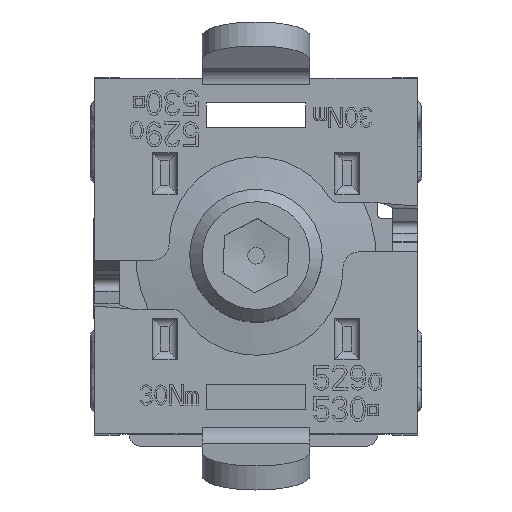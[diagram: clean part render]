
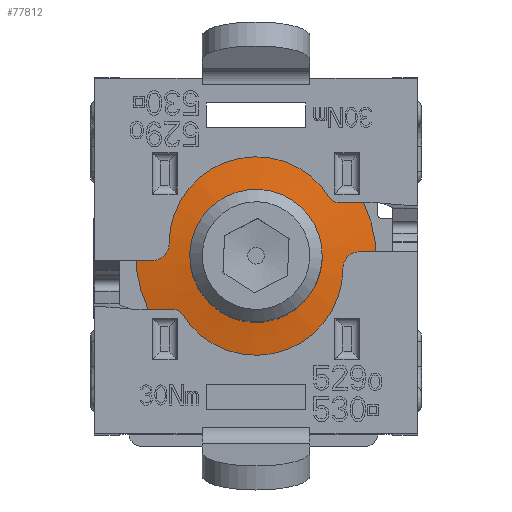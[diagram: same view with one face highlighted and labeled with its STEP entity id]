
A CAD part, top view. The second image highlights one B-rep face of the part: STEP entity #77812.
In plain terms, the highlighted conical face has half-angle 81.027 degrees and reference radius 14.5 mm.
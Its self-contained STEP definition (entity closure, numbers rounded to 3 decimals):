
#4224 = AXIS2_PLACEMENT_3D ( 'NONE', #26512, #65014, #64211 ) ;
#7205 = FACE_OUTER_BOUND ( 'NONE', #50104, .T. ) ;
#11883 = DIRECTION ( 'NONE',  ( -0.993, -0.115, 0. ) ) ;
#13421 = EDGE_CURVE ( 'NONE', #80556, #80556, #21900, .T. ) ;
#13458 = EDGE_LOOP ( 'NONE', ( #54775 ) ) ;
#15121 = VERTEX_POINT ( 'NONE', #17976 ) ;
#17976 = CARTESIAN_POINT ( 'NONE',  ( -14.404, 19.834, -25.99 ) ) ;
#18363 = EDGE_CURVE ( 'NONE', #15121, #15121, #28356, .T. ) ;
#19162 = CONICAL_SURFACE ( 'NONE', #57681, 14.5, 1.414 ) ;
#21047 = DIRECTION ( 'NONE',  ( 0., 0., -1. ) ) ;
#21900 = CIRCLE ( 'NONE', #73510, 5. ) ;
#26512 = CARTESIAN_POINT ( 'NONE',  ( 0., 21.5, -25.99 ) ) ;
#28356 = CIRCLE ( 'NONE', #4224, 14.5 ) ;
#36541 = CARTESIAN_POINT ( 'NONE',  ( -4.967, 20.926, -24.49 ) ) ;
#39645 = CARTESIAN_POINT ( 'NONE',  ( 0., 21.5, -25.99 ) ) ;
#42641 = CARTESIAN_POINT ( 'NONE',  ( 0., 21.5, -24.49 ) ) ;
#50104 = EDGE_LOOP ( 'NONE', ( #69775 ) ) ;
#52607 = DIRECTION ( 'NONE',  ( -0.115, 0.993, 0. ) ) ;
#54775 = ORIENTED_EDGE ( 'NONE', *, *, #13421, .T. ) ;
#57681 = AXIS2_PLACEMENT_3D ( 'NONE', #39645, #21047, #52607 ) ;
#64211 = DIRECTION ( 'NONE',  ( -0.993, -0.115, 0. ) ) ;
#65014 = DIRECTION ( 'NONE',  ( 0., 0., 1. ) ) ;
#69775 = ORIENTED_EDGE ( 'NONE', *, *, #18363, .T. ) ;
#73510 = AXIS2_PLACEMENT_3D ( 'NONE', #42641, #81428, #11883 ) ;
#75667 = FACE_BOUND ( 'NONE', #13458, .T. ) ;
#77812 = ADVANCED_FACE ( 'NONE', ( #7205, #75667 ), #19162, .T. ) ;
#80556 = VERTEX_POINT ( 'NONE', #36541 ) ;
#81428 = DIRECTION ( 'NONE',  ( 0., 0., -1. ) ) ;
